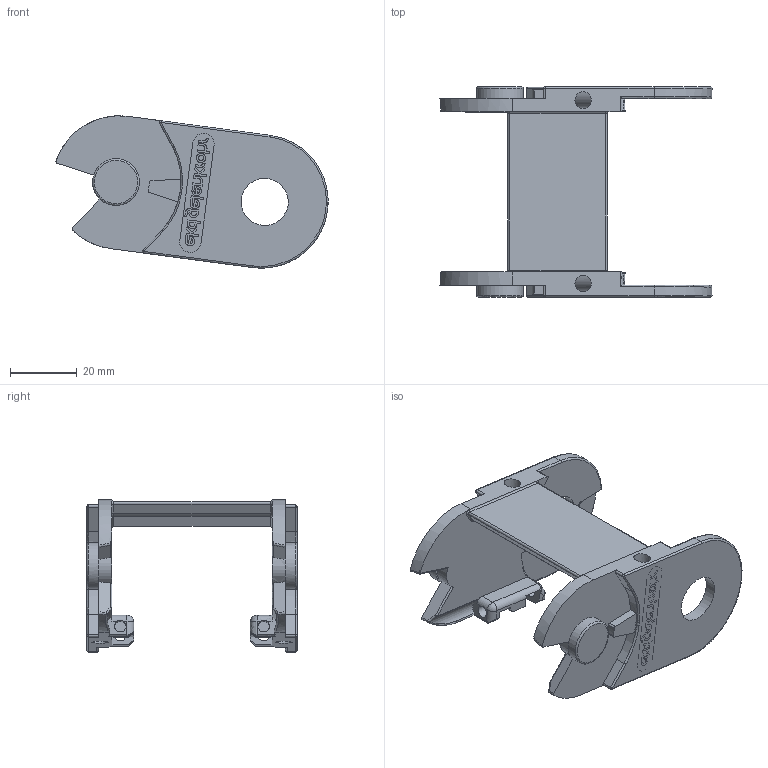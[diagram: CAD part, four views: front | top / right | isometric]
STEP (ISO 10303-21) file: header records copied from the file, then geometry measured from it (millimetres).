
FILE_DESCRIPTION((''),'2;1');
FILE_NAME('C:\Uebbing\PARAMETERKETTEN\KOLIBRI\Kol_40_062_2\Kol_40_062_2.stp','2011-11-02T12:51:51',('Uebbing'),(''),'Autodesk Inventor 10','Autodesk Inventor 10','');
FILE_SCHEMA(('AUTOMOTIVE_DESIGN { 1 0 10303 214 1 1 1 1 }'));
Length unit declared in the file: millimetre
Products named in the file (1): Kol_40_062_2
Bounding box: 81.58 x 63 x 45.67 mm (x, y, z)
Volume: 28816.6 mm3; surface area: 19523.5 mm2
Topology: 1 solids, 8 shells, 675 faces, 1764 edges, 1127 vertices
Faces by surface type: bspline 351, plane 209, cylinder 97, torus 10, sphere 8
Full cylindrical faces by diameter (mm): 1.609 x1, 2.825 x1, 3.5 x2, 4 x2, 5 x1, 6 x1, 14 x1, 14.1 x1
Entity records: 24044 total; most frequent: CARTESIAN_POINT 8731, ORIENTED_EDGE 3466, DIRECTION 2625, EDGE_CURVE 1733, VERTEX_POINT 1119, VECTOR 1087, LINE 1087, AXIS2_PLACEMENT_3D 769
